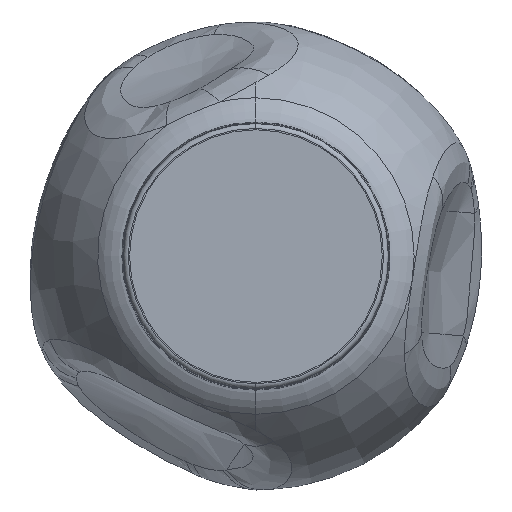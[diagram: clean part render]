
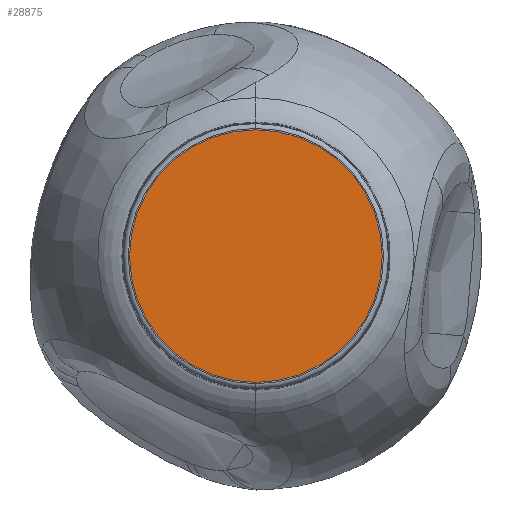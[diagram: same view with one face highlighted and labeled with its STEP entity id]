
A CAD part, front view. The second image highlights one B-rep face of the part: STEP entity #28875.
In plain terms, the highlighted planar face has unit normal (0, -1, 0).
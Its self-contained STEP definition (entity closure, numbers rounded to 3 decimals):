
#1369 = AXIS2_PLACEMENT_3D ( 'NONE', #62239, #63186, #62871 ) ;
#10332 = CARTESIAN_POINT ( 'NONE',  ( 0., -4.069, 51.268 ) ) ;
#11656 = EDGE_CURVE ( 'NONE', #50218, #62741, #25941, .T. ) ;
#13964 = CIRCLE ( 'NONE', #53873, 51.268 ) ;
#18891 = FACE_OUTER_BOUND ( 'NONE', #37456, .T. ) ;
#25941 = CIRCLE ( 'NONE', #1369, 51.268 ) ;
#26604 = ORIENTED_EDGE ( 'NONE', *, *, #11656, .T. ) ;
#28875 = ADVANCED_FACE ( 'NONE', ( #18891 ), #43223, .F. ) ;
#29682 = ORIENTED_EDGE ( 'NONE', *, *, #57054, .T. ) ;
#32673 = DIRECTION ( 'NONE',  ( 0., 0., 1. ) ) ;
#36177 = AXIS2_PLACEMENT_3D ( 'NONE', #38428, #38106, #32673 ) ;
#37059 = CARTESIAN_POINT ( 'NONE',  ( 0., -4.069, 0. ) ) ;
#37456 = EDGE_LOOP ( 'NONE', ( #29682, #26604 ) ) ;
#38106 = DIRECTION ( 'NONE',  ( 0., 1., 0. ) ) ;
#38428 = CARTESIAN_POINT ( 'NONE',  ( -51.268, -4.069, 0. ) ) ;
#40908 = DIRECTION ( 'NONE',  ( 0., -1., 0. ) ) ;
#43223 = PLANE ( 'NONE',  #36177 ) ;
#50218 = VERTEX_POINT ( 'NONE', #10332 ) ;
#53873 = AXIS2_PLACEMENT_3D ( 'NONE', #37059, #40908, #60447 ) ;
#56707 = CARTESIAN_POINT ( 'NONE',  ( 0., -4.069, -51.268 ) ) ;
#57054 = EDGE_CURVE ( 'NONE', #62741, #50218, #13964, .T. ) ;
#60447 = DIRECTION ( 'NONE',  ( 0., 0., -1. ) ) ;
#62239 = CARTESIAN_POINT ( 'NONE',  ( 0., -4.069, 0. ) ) ;
#62741 = VERTEX_POINT ( 'NONE', #56707 ) ;
#62871 = DIRECTION ( 'NONE',  ( 0., 0., -1. ) ) ;
#63186 = DIRECTION ( 'NONE',  ( 0., -1., 0. ) ) ;
